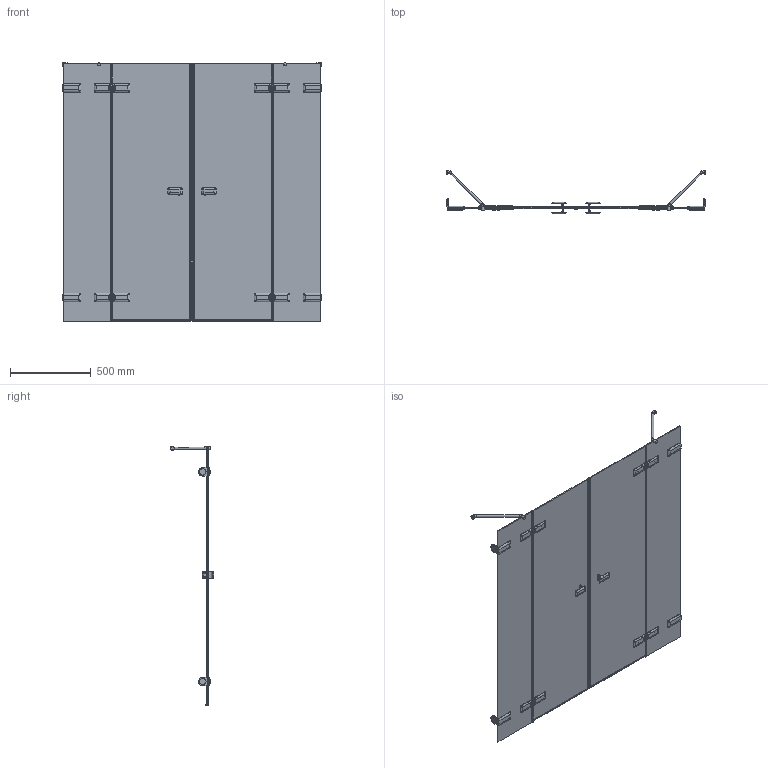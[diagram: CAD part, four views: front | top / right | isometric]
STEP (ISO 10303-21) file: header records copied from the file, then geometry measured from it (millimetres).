
FILE_DESCRIPTION(/* description */ (''),/* implementation_level */ '2;1');
FILE_NAME(/* name */ 'D:\88\TREND PART GV-864\TREND PART GV-864-3D.stp',/* time_stamp */ '2020-08-30T19:29:49+03:00',/* author */ ('User'),/* organization */ (''),/* preprocessor_version */ 'ST-DEVELOPER v15.2',/* originating_system */ 'Autodesk Inventor 2014',/* authorisation */ '');
FILE_SCHEMA (('AUTOMOTIVE_DESIGN { 1 0 10303 214 3 1 1 }'));
Products named in the file (1): TREND PART GV-864-3D
Bounding box: 1600 x 268.64 x 1608.49 mm (x, y, z)
Volume: 16529024.1 mm3; surface area: 5785549.9 mm2
Topology: 15 solids, 15 shells, 2676 faces, 7189 edges, 4536 vertices
Faces by surface type: plane 1467, cylinder 746, bspline 304, cone 72, torus 62, sphere 25
Full cylindrical faces by diameter (mm): 4 x4, 5 x12, 5.2 x4, 6 x8, 7.2 x8, 9 x16, 13 x8, 15 x2, 16 x8, 20 x4, 26 x2, 40 x4
Entity records: 119594 total; most frequent: CARTESIAN_POINT 52064, ORIENTED_EDGE 13742, DIRECTION 13006, EDGE_CURVE 6865, AXIS2_PLACEMENT_3D 4555, VERTEX_POINT 4460, LINE 3896, VECTOR 3896
